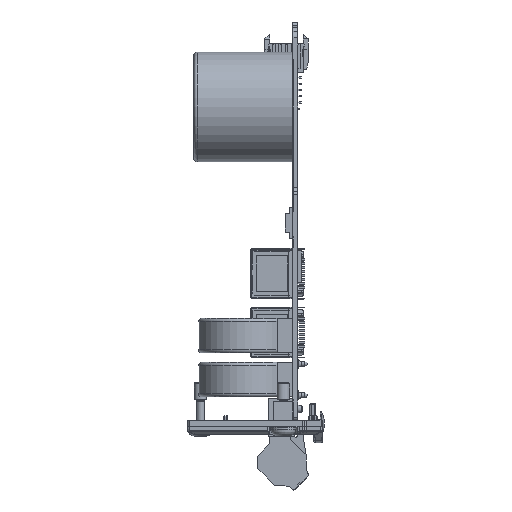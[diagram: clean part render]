
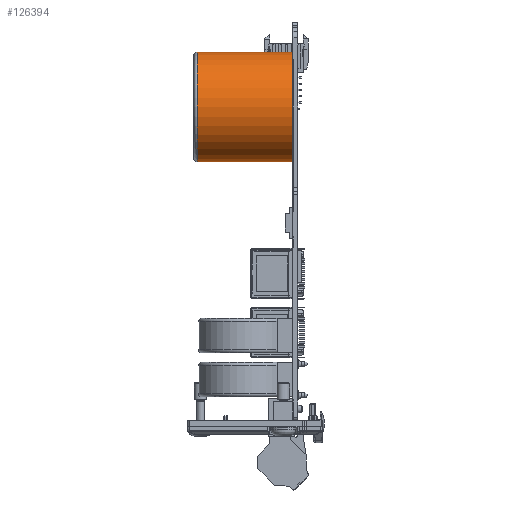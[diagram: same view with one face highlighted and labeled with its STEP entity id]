
A CAD part, left-side view. The second image highlights one B-rep face of the part: STEP entity #126394.
In plain terms, the highlighted cylindrical face has radius 17.5 mm (diameter 35 mm), a full revolution.
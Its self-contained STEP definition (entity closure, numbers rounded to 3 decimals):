
#6927=CYLINDRICAL_SURFACE('',#135182,17.5);
#13292=FACE_OUTER_BOUND('',#20321,.T.);
#20321=EDGE_LOOP('',(#111200,#111201,#111202,#111203,#111204));
#34661=LINE('',#209252,#48528);
#48528=VECTOR('',#166056,17.5);
#50482=CIRCLE('',#130467,17.5);
#51377=CIRCLE('',#135180,17.5);
#51378=CIRCLE('',#135181,17.5);
#55646=VERTEX_POINT('',#188978);
#62083=VERTEX_POINT('',#209246);
#62084=VERTEX_POINT('',#209248);
#68879=EDGE_CURVE('',#55646,#55646,#50482,.T.);
#78830=EDGE_CURVE('',#62083,#62084,#51377,.T.);
#78831=EDGE_CURVE('',#62084,#62083,#51378,.T.);
#78832=EDGE_CURVE('',#62084,#55646,#34661,.T.);
#111200=ORIENTED_EDGE('',*,*,#78830,.F.);
#111201=ORIENTED_EDGE('',*,*,#78831,.F.);
#111202=ORIENTED_EDGE('',*,*,#78832,.T.);
#111203=ORIENTED_EDGE('',*,*,#68879,.F.);
#111204=ORIENTED_EDGE('',*,*,#78832,.F.);
#126394=ADVANCED_FACE('',(#13292),#6927,.T.);
#130467=AXIS2_PLACEMENT_3D('',#188979,#147601,#147602);
#135180=AXIS2_PLACEMENT_3D('',#209249,#166050,#166051);
#135181=AXIS2_PLACEMENT_3D('',#209250,#166052,#166053);
#135182=AXIS2_PLACEMENT_3D('',#209251,#166054,#166055);
#147601=DIRECTION('center_axis',(0.,-1.,0.));
#147602=DIRECTION('ref_axis',(-1.,0.,0.));
#166050=DIRECTION('center_axis',(0.,1.,0.));
#166051=DIRECTION('ref_axis',(-1.,0.,0.));
#166052=DIRECTION('center_axis',(0.,1.,0.));
#166053=DIRECTION('ref_axis',(-1.,0.,0.));
#166054=DIRECTION('center_axis',(0.,1.,0.));
#166055=DIRECTION('ref_axis',(-1.,0.,0.));
#166056=DIRECTION('',(0.,-1.,0.));
#188978=CARTESIAN_POINT('',(-23.56,0.,99.88));
#188979=CARTESIAN_POINT('Origin',(-41.06,0.,99.88));
#209246=CARTESIAN_POINT('',(-41.06,30.5,82.38));
#209248=CARTESIAN_POINT('',(-23.56,30.5,99.88));
#209249=CARTESIAN_POINT('Origin',(-41.06,30.5,99.88));
#209250=CARTESIAN_POINT('Origin',(-41.06,30.5,99.88));
#209251=CARTESIAN_POINT('Origin',(-41.06,0.,99.88));
#209252=CARTESIAN_POINT('',(-23.56,0.,99.88));
